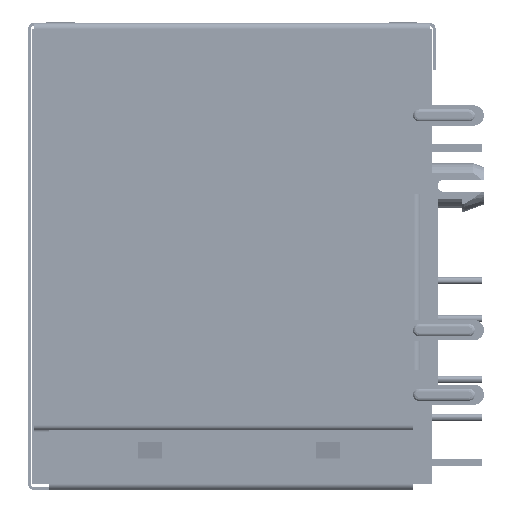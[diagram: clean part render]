
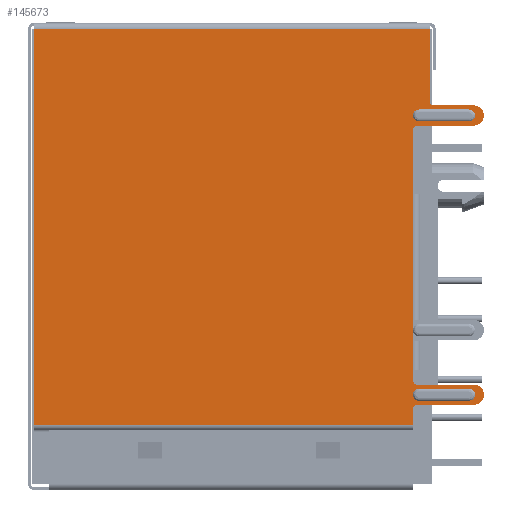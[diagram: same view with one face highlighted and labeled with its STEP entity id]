
A CAD part, left-side view. The second image highlights one B-rep face of the part: STEP entity #145673.
In plain terms, the highlighted planar face has unit normal (-1, 0, 0).
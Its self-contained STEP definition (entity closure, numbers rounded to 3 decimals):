
#119094=DIRECTION('',(0.,0.,1.));
#119095=VECTOR('',#119094,26.45);
#119096=CARTESIAN_POINT('',(-65.475,-0.2,-13.225));
#119097=LINE('',#119096,#119095);
#119112=DIRECTION('',(0.,-1.,0.));
#119113=VECTOR('',#119112,1.4);
#119114=CARTESIAN_POINT('',(-65.475,-19.64,12.11));
#119115=LINE('',#119114,#119113);
#119116=DIRECTION('',(0.,-1.,0.));
#119117=VECTOR('',#119116,0.7);
#119118=CARTESIAN_POINT('',(-65.475,-22.985,12.11));
#119119=LINE('',#119118,#119117);
#119120=CARTESIAN_POINT('',(-65.475,-23.685,12.41));
#119121=DIRECTION('',(-1.,0.,0.));
#119122=DIRECTION('',(0.,0.,-1.));
#119123=AXIS2_PLACEMENT_3D('',#119120,#119121,#119122);
#119125=DIRECTION('',(0.,0.,1.));
#119126=VECTOR('',#119125,3.775);
#119127=CARTESIAN_POINT('',(-65.475,-23.985,12.41));
#119128=LINE('',#119127,#119126);
#119129=CARTESIAN_POINT('',(-65.475,-24.66,16.185));
#119130=DIRECTION('',(1.,0.,0.));
#119131=DIRECTION('',(0.,1.,0.));
#119132=AXIS2_PLACEMENT_3D('',#119129,#119130,#119131);
#119134=DIRECTION('',(0.,0.,-1.));
#119135=VECTOR('',#119134,3.775);
#119136=CARTESIAN_POINT('',(-65.475,-25.335,16.185));
#119137=LINE('',#119136,#119135);
#119138=CARTESIAN_POINT('',(-65.475,-25.635,12.41));
#119139=DIRECTION('',(-1.,0.,0.));
#119140=DIRECTION('',(0.,1.,0.));
#119141=AXIS2_PLACEMENT_3D('',#119138,#119139,#119140);
#119143=DIRECTION('',(0.,-1.,0.));
#119144=VECTOR('',#119143,1.045);
#119145=CARTESIAN_POINT('',(-65.475,-25.635,12.11));
#119146=LINE('',#119145,#119144);
#119147=DIRECTION('',(0.,1.,0.));
#119148=VECTOR('',#119147,26.48);
#119149=CARTESIAN_POINT('',(-65.475,-26.68,-13.225));
#119150=LINE('',#119149,#119148);
#119151=DIRECTION('',(0.,-1.,0.));
#119152=VECTOR('',#119151,4.815);
#119153=CARTESIAN_POINT('',(-65.475,-0.2,13.225));
#119154=LINE('',#119153,#119152);
#119155=CARTESIAN_POINT('',(-65.475,-5.015,13.525));
#119156=DIRECTION('',(-1.,0.,0.));
#119157=DIRECTION('',(0.,0.,-1.));
#119158=AXIS2_PLACEMENT_3D('',#119155,#119156,#119157);
#119160=DIRECTION('',(0.,0.,1.));
#119161=VECTOR('',#119160,2.66);
#119162=CARTESIAN_POINT('',(-65.475,-5.315,13.525));
#119163=LINE('',#119162,#119161);
#119164=CARTESIAN_POINT('',(-65.475,-5.99,16.185));
#119165=DIRECTION('',(1.,0.,0.));
#119166=DIRECTION('',(0.,1.,0.));
#119167=AXIS2_PLACEMENT_3D('',#119164,#119165,#119166);
#119169=DIRECTION('',(0.,0.,-1.));
#119170=VECTOR('',#119169,3.775);
#119171=CARTESIAN_POINT('',(-65.475,-6.665,16.185));
#119172=LINE('',#119171,#119170);
#119173=CARTESIAN_POINT('',(-65.475,-6.965,12.41));
#119174=DIRECTION('',(-1.,0.,0.));
#119175=DIRECTION('',(0.,1.,0.));
#119176=AXIS2_PLACEMENT_3D('',#119173,#119174,#119175);
#119178=DIRECTION('',(0.,-1.,0.));
#119179=VECTOR('',#119178,4.3);
#119180=CARTESIAN_POINT('',(-65.475,-6.965,12.11));
#119181=LINE('',#119180,#119179);
#119182=CARTESIAN_POINT('',(-65.475,-5.99,15.86));
#119183=DIRECTION('',(1.,0.,0.));
#119184=DIRECTION('',(0.,1.,0.));
#119185=AXIS2_PLACEMENT_3D('',#119182,#119183,#119184);
#119187=DIRECTION('',(0.,0.,-1.));
#119188=VECTOR('',#119187,3.35);
#119189=CARTESIAN_POINT('',(-65.475,-5.59,15.86));
#119190=LINE('',#119189,#119188);
#119191=CARTESIAN_POINT('',(-65.475,-5.99,12.51));
#119192=DIRECTION('',(1.,0.,0.));
#119193=DIRECTION('',(0.,-1.,0.));
#119194=AXIS2_PLACEMENT_3D('',#119191,#119192,#119193);
#119196=DIRECTION('',(0.,0.,1.));
#119197=VECTOR('',#119196,3.35);
#119198=CARTESIAN_POINT('',(-65.475,-6.39,12.51));
#119199=LINE('',#119198,#119197);
#119200=CARTESIAN_POINT('',(-65.475,-24.66,15.86));
#119201=DIRECTION('',(1.,0.,0.));
#119202=DIRECTION('',(0.,1.,0.));
#119203=AXIS2_PLACEMENT_3D('',#119200,#119201,#119202);
#119205=DIRECTION('',(0.,0.,-1.));
#119206=VECTOR('',#119205,3.35);
#119207=CARTESIAN_POINT('',(-65.475,-24.26,15.86));
#119208=LINE('',#119207,#119206);
#119209=CARTESIAN_POINT('',(-65.475,-24.66,12.51));
#119210=DIRECTION('',(1.,0.,0.));
#119211=DIRECTION('',(0.,-1.,0.));
#119212=AXIS2_PLACEMENT_3D('',#119209,#119210,#119211);
#119214=DIRECTION('',(0.,0.,1.));
#119215=VECTOR('',#119214,3.35);
#119216=CARTESIAN_POINT('',(-65.475,-25.06,12.51));
#119217=LINE('',#119216,#119215);
#119346=DIRECTION('',(0.,0.,1.));
#119347=VECTOR('',#119346,25.335);
#119348=CARTESIAN_POINT('',(-65.475,-26.68,-13.225));
#119349=LINE('',#119348,#119347);
#119408=DIRECTION('',(0.,1.,0.));
#119409=VECTOR('',#119408,8.375);
#119410=CARTESIAN_POINT('',(-65.475,-19.64,12.11));
#119411=LINE('',#119410,#119409);
#119416=DIRECTION('',(0.,1.,0.));
#119417=VECTOR('',#119416,1.945);
#119418=CARTESIAN_POINT('',(-65.475,-22.985,12.11));
#119419=LINE('',#119418,#119417);
#125762=CARTESIAN_POINT('',(-65.475,-26.68,-13.225));
#125763=CARTESIAN_POINT('',(-65.475,-0.2,-13.225));
#125764=VERTEX_POINT('',#125762);
#125765=VERTEX_POINT('',#125763);
#125770=CARTESIAN_POINT('',(-65.475,-26.68,12.11));
#125772=VERTEX_POINT('',#125770);
#125774=CARTESIAN_POINT('',(-65.475,-0.2,13.225));
#125775=CARTESIAN_POINT('',(-65.475,-5.015,13.225));
#125776=VERTEX_POINT('',#125774);
#125777=VERTEX_POINT('',#125775);
#125778=CARTESIAN_POINT('',(-65.475,-5.315,13.525));
#125779=VERTEX_POINT('',#125778);
#125780=CARTESIAN_POINT('',(-65.475,-5.315,16.185));
#125781=VERTEX_POINT('',#125780);
#125782=CARTESIAN_POINT('',(-65.475,-6.665,16.185));
#125783=VERTEX_POINT('',#125782);
#125784=CARTESIAN_POINT('',(-65.475,-6.665,12.41));
#125785=VERTEX_POINT('',#125784);
#125786=CARTESIAN_POINT('',(-65.475,-6.965,12.11));
#125787=VERTEX_POINT('',#125786);
#125788=CARTESIAN_POINT('',(-65.475,-23.685,12.11));
#125789=CARTESIAN_POINT('',(-65.475,-23.985,12.41));
#125790=VERTEX_POINT('',#125788);
#125791=VERTEX_POINT('',#125789);
#125792=CARTESIAN_POINT('',(-65.475,-23.985,16.185));
#125793=VERTEX_POINT('',#125792);
#125794=CARTESIAN_POINT('',(-65.475,-25.335,16.185));
#125795=VERTEX_POINT('',#125794);
#125796=CARTESIAN_POINT('',(-65.475,-25.335,12.41));
#125797=VERTEX_POINT('',#125796);
#125798=CARTESIAN_POINT('',(-65.475,-25.635,12.11));
#125799=VERTEX_POINT('',#125798);
#125826=CARTESIAN_POINT('',(-65.475,-22.985,12.11));
#125828=VERTEX_POINT('',#125826);
#125834=CARTESIAN_POINT('',(-65.475,-11.265,12.11));
#125836=VERTEX_POINT('',#125834);
#125986=CARTESIAN_POINT('',(-65.475,-19.64,12.11));
#125987=CARTESIAN_POINT('',(-65.475,-21.04,12.11));
#125988=VERTEX_POINT('',#125986);
#125989=VERTEX_POINT('',#125987);
#126078=CARTESIAN_POINT('',(-65.475,-5.59,15.86));
#126079=CARTESIAN_POINT('',(-65.475,-6.39,15.86));
#126080=VERTEX_POINT('',#126078);
#126081=VERTEX_POINT('',#126079);
#126082=CARTESIAN_POINT('',(-65.475,-6.39,12.51));
#126083=VERTEX_POINT('',#126082);
#126084=CARTESIAN_POINT('',(-65.475,-5.59,12.51));
#126085=VERTEX_POINT('',#126084);
#126110=CARTESIAN_POINT('',(-65.475,-24.26,15.86));
#126111=CARTESIAN_POINT('',(-65.475,-25.06,15.86));
#126112=VERTEX_POINT('',#126110);
#126113=VERTEX_POINT('',#126111);
#126114=CARTESIAN_POINT('',(-65.475,-25.06,12.51));
#126115=VERTEX_POINT('',#126114);
#126116=CARTESIAN_POINT('',(-65.475,-24.26,12.51));
#126117=VERTEX_POINT('',#126116);
#145607=CARTESIAN_POINT('',(-65.475,0.2,6.94));
#145608=DIRECTION('',(1.,0.,0.));
#145609=DIRECTION('',(0.,0.,1.));
#145610=AXIS2_PLACEMENT_3D('',#145607,#145608,#145609);
#145611=PLANE('',#145610);
#145613=ORIENTED_EDGE('',*,*,#145612,.T.);
#145615=ORIENTED_EDGE('',*,*,#145614,.F.);
#145617=ORIENTED_EDGE('',*,*,#145616,.T.);
#145619=ORIENTED_EDGE('',*,*,#145618,.T.);
#145621=ORIENTED_EDGE('',*,*,#145620,.T.);
#145623=ORIENTED_EDGE('',*,*,#145622,.T.);
#145625=ORIENTED_EDGE('',*,*,#145624,.T.);
#145627=ORIENTED_EDGE('',*,*,#145626,.T.);
#145629=ORIENTED_EDGE('',*,*,#145628,.T.);
#145631=ORIENTED_EDGE('',*,*,#145630,.F.);
#145633=ORIENTED_EDGE('',*,*,#145632,.T.);
#145634=ORIENTED_EDGE('',*,*,#145598,.T.);
#145636=ORIENTED_EDGE('',*,*,#145635,.T.);
#145638=ORIENTED_EDGE('',*,*,#145637,.T.);
#145640=ORIENTED_EDGE('',*,*,#145639,.T.);
#145642=ORIENTED_EDGE('',*,*,#145641,.T.);
#145644=ORIENTED_EDGE('',*,*,#145643,.T.);
#145646=ORIENTED_EDGE('',*,*,#145645,.T.);
#145648=ORIENTED_EDGE('',*,*,#145647,.T.);
#145650=ORIENTED_EDGE('',*,*,#145649,.F.);
#145651=EDGE_LOOP('',(#145613,#145615,#145617,#145619,#145621,#145623,#145625,
#145627,#145629,#145631,#145633,#145634,#145636,#145638,#145640,#145642,#145644,
#145646,#145648,#145650));
#145652=FACE_OUTER_BOUND('',#145651,.F.);
#145654=ORIENTED_EDGE('',*,*,#145653,.F.);
#145656=ORIENTED_EDGE('',*,*,#145655,.T.);
#145658=ORIENTED_EDGE('',*,*,#145657,.F.);
#145660=ORIENTED_EDGE('',*,*,#145659,.T.);
#145661=EDGE_LOOP('',(#145654,#145656,#145658,#145660));
#145662=FACE_BOUND('',#145661,.F.);
#145664=ORIENTED_EDGE('',*,*,#145663,.F.);
#145666=ORIENTED_EDGE('',*,*,#145665,.T.);
#145668=ORIENTED_EDGE('',*,*,#145667,.F.);
#145670=ORIENTED_EDGE('',*,*,#145669,.T.);
#145671=EDGE_LOOP('',(#145664,#145666,#145668,#145670));
#145672=FACE_BOUND('',#145671,.F.);
#145673=ADVANCED_FACE('',(#145652,#145662,#145672),#145611,.F.);
#119124=CIRCLE('',#119123,0.3);
#119133=CIRCLE('',#119132,0.675);
#119142=CIRCLE('',#119141,0.3);
#119159=CIRCLE('',#119158,0.3);
#119168=CIRCLE('',#119167,0.675);
#119177=CIRCLE('',#119176,0.3);
#119186=CIRCLE('',#119185,0.4);
#119195=CIRCLE('',#119194,0.4);
#119204=CIRCLE('',#119203,0.4);
#119213=CIRCLE('',#119212,0.4);
#145598=EDGE_CURVE('',#125765,#125776,#119097,.T.);
#145612=EDGE_CURVE('',#125988,#125989,#119115,.T.);
#145614=EDGE_CURVE('',#125828,#125989,#119419,.T.);
#145616=EDGE_CURVE('',#125828,#125790,#119119,.T.);
#145618=EDGE_CURVE('',#125790,#125791,#119124,.T.);
#145620=EDGE_CURVE('',#125791,#125793,#119128,.T.);
#145622=EDGE_CURVE('',#125793,#125795,#119133,.T.);
#145624=EDGE_CURVE('',#125795,#125797,#119137,.T.);
#145626=EDGE_CURVE('',#125797,#125799,#119142,.T.);
#145628=EDGE_CURVE('',#125799,#125772,#119146,.T.);
#145630=EDGE_CURVE('',#125764,#125772,#119349,.T.);
#145632=EDGE_CURVE('',#125764,#125765,#119150,.T.);
#145635=EDGE_CURVE('',#125776,#125777,#119154,.T.);
#145637=EDGE_CURVE('',#125777,#125779,#119159,.T.);
#145639=EDGE_CURVE('',#125779,#125781,#119163,.T.);
#145641=EDGE_CURVE('',#125781,#125783,#119168,.T.);
#145643=EDGE_CURVE('',#125783,#125785,#119172,.T.);
#145645=EDGE_CURVE('',#125785,#125787,#119177,.T.);
#145647=EDGE_CURVE('',#125787,#125836,#119181,.T.);
#145649=EDGE_CURVE('',#125988,#125836,#119411,.T.);
#145653=EDGE_CURVE('',#126080,#126081,#119186,.T.);
#145655=EDGE_CURVE('',#126080,#126085,#119190,.T.);
#145657=EDGE_CURVE('',#126083,#126085,#119195,.T.);
#145659=EDGE_CURVE('',#126083,#126081,#119199,.T.);
#145663=EDGE_CURVE('',#126112,#126113,#119204,.T.);
#145665=EDGE_CURVE('',#126112,#126117,#119208,.T.);
#145667=EDGE_CURVE('',#126115,#126117,#119213,.T.);
#145669=EDGE_CURVE('',#126115,#126113,#119217,.T.);
